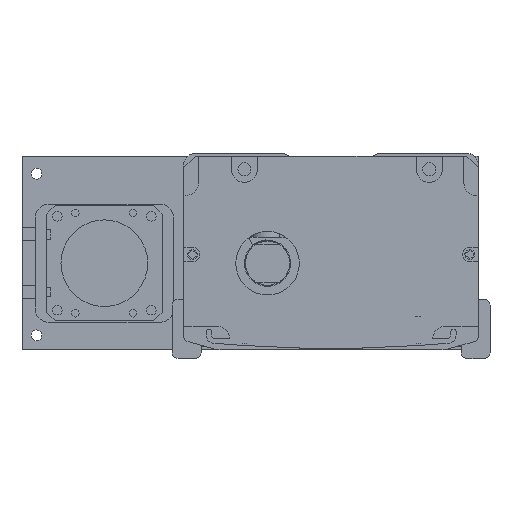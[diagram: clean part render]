
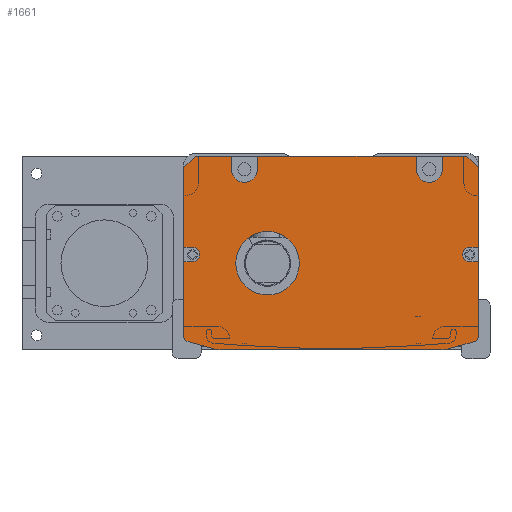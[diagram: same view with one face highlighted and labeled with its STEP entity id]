
A CAD part, front view. The second image highlights one B-rep face of the part: STEP entity #1661.
In plain terms, the highlighted planar face has unit normal (0, -1, 0).
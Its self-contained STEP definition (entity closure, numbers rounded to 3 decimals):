
#1661=ADVANCED_FACE('',(#4376,#4377),#2363,.F.);
#2363=PLANE('',#13967);
#2670=LINE('',#19574,#3477);
#2674=LINE('',#19582,#3481);
#2684=LINE('',#19603,#3491);
#2688=LINE('',#19611,#3495);
#2957=LINE('',#20604,#3764);
#2958=LINE('',#20606,#3765);
#2959=LINE('',#20608,#3766);
#2960=LINE('',#20612,#3767);
#2961=LINE('',#20614,#3768);
#2962=LINE('',#20616,#3769);
#2963=LINE('',#20620,#3770);
#2964=LINE('',#20622,#3771);
#2965=LINE('',#20624,#3772);
#2966=LINE('',#20625,#3773);
#2967=LINE('',#20629,#3774);
#2968=LINE('',#20632,#3775);
#2969=LINE('',#20636,#3776);
#2970=LINE('',#20640,#3777);
#2971=LINE('',#20643,#3778);
#2972=LINE('',#20647,#3779);
#3477=VECTOR('',#15289,1.);
#3481=VECTOR('',#15293,1.);
#3491=VECTOR('',#15305,1.);
#3495=VECTOR('',#15309,1.);
#3764=VECTOR('',#16374,1.);
#3765=VECTOR('',#16375,1.);
#3766=VECTOR('',#16376,1.);
#3767=VECTOR('',#16379,1.);
#3768=VECTOR('',#16380,1.);
#3769=VECTOR('',#16381,1.);
#3770=VECTOR('',#16384,1.);
#3771=VECTOR('',#16385,1.);
#3772=VECTOR('',#16386,1.);
#3773=VECTOR('',#16387,1.);
#3774=VECTOR('',#16390,1.);
#3775=VECTOR('',#16393,1.);
#3776=VECTOR('',#16396,1.);
#3777=VECTOR('',#16399,1.);
#3778=VECTOR('',#16402,1.);
#3779=VECTOR('',#16405,1.);
#4376=FACE_BOUND('',#5140,.T.);
#4377=FACE_BOUND('',#5141,.T.);
#5140=EDGE_LOOP('',(#7096,#7097,#7098,#7099,#7100,#7101,#7102,#7103,#7104,
#7105,#7106,#7107,#7108,#7109,#7110,#7111,#7112,#7113,#7114,#7115,#7116,
#7117,#7118,#7119,#7120,#7121,#7122,#7123));
#5141=EDGE_LOOP('',(#7124));
#7096=ORIENTED_EDGE('',*,*,#11100,.T.);
#7097=ORIENTED_EDGE('',*,*,#11584,.T.);
#7098=ORIENTED_EDGE('',*,*,#11585,.T.);
#7099=ORIENTED_EDGE('',*,*,#11586,.F.);
#7100=ORIENTED_EDGE('',*,*,#11587,.T.);
#7101=ORIENTED_EDGE('',*,*,#11588,.F.);
#7102=ORIENTED_EDGE('',*,*,#11589,.T.);
#7103=ORIENTED_EDGE('',*,*,#11590,.F.);
#7104=ORIENTED_EDGE('',*,*,#11591,.T.);
#7105=ORIENTED_EDGE('',*,*,#11592,.F.);
#7106=ORIENTED_EDGE('',*,*,#11593,.T.);
#7107=ORIENTED_EDGE('',*,*,#11594,.T.);
#7108=ORIENTED_EDGE('',*,*,#11118,.T.);
#7109=ORIENTED_EDGE('',*,*,#11595,.T.);
#7110=ORIENTED_EDGE('',*,*,#11596,.T.);
#7111=ORIENTED_EDGE('',*,*,#11597,.T.);
#7112=ORIENTED_EDGE('',*,*,#11114,.T.);
#7113=ORIENTED_EDGE('',*,*,#11598,.T.);
#7114=ORIENTED_EDGE('',*,*,#11599,.T.);
#7115=ORIENTED_EDGE('',*,*,#11600,.T.);
#7116=ORIENTED_EDGE('',*,*,#11601,.T.);
#7117=ORIENTED_EDGE('',*,*,#11602,.T.);
#7118=ORIENTED_EDGE('',*,*,#11603,.T.);
#7119=ORIENTED_EDGE('',*,*,#11604,.T.);
#7120=ORIENTED_EDGE('',*,*,#11104,.T.);
#7121=ORIENTED_EDGE('',*,*,#11605,.T.);
#7122=ORIENTED_EDGE('',*,*,#11606,.T.);
#7123=ORIENTED_EDGE('',*,*,#11607,.T.);
#7124=ORIENTED_EDGE('',*,*,#11608,.T.);
#9777=VERTEX_POINT('',#19573);
#9778=VERTEX_POINT('',#19575);
#9781=VERTEX_POINT('',#19581);
#9782=VERTEX_POINT('',#19583);
#9791=VERTEX_POINT('',#19602);
#9792=VERTEX_POINT('',#19604);
#9795=VERTEX_POINT('',#19610);
#9796=VERTEX_POINT('',#19612);
#10122=VERTEX_POINT('',#20605);
#10123=VERTEX_POINT('',#20607);
#10124=VERTEX_POINT('',#20609);
#10125=VERTEX_POINT('',#20611);
#10126=VERTEX_POINT('',#20613);
#10127=VERTEX_POINT('',#20615);
#10128=VERTEX_POINT('',#20617);
#10129=VERTEX_POINT('',#20619);
#10130=VERTEX_POINT('',#20621);
#10131=VERTEX_POINT('',#20623);
#10132=VERTEX_POINT('',#20626);
#10133=VERTEX_POINT('',#20628);
#10134=VERTEX_POINT('',#20631);
#10135=VERTEX_POINT('',#20633);
#10136=VERTEX_POINT('',#20635);
#10137=VERTEX_POINT('',#20637);
#10138=VERTEX_POINT('',#20639);
#10139=VERTEX_POINT('',#20641);
#10140=VERTEX_POINT('',#20644);
#10141=VERTEX_POINT('',#20646);
#10142=VERTEX_POINT('',#20649);
#11100=EDGE_CURVE('',#9778,#9777,#2670,.T.);
#11104=EDGE_CURVE('',#9782,#9781,#2674,.T.);
#11114=EDGE_CURVE('',#9792,#9791,#2684,.T.);
#11118=EDGE_CURVE('',#9796,#9795,#2688,.T.);
#11584=EDGE_CURVE('',#9777,#10122,#2957,.T.);
#11585=EDGE_CURVE('',#10122,#10123,#2958,.T.);
#11586=EDGE_CURVE('',#10124,#10123,#2959,.T.);
#11587=EDGE_CURVE('',#10124,#10125,#13008,.T.);
#11588=EDGE_CURVE('',#10126,#10125,#2960,.T.);
#11589=EDGE_CURVE('',#10126,#10127,#2961,.T.);
#11590=EDGE_CURVE('',#10128,#10127,#2962,.T.);
#11591=EDGE_CURVE('',#10128,#10129,#13009,.T.);
#11592=EDGE_CURVE('',#10130,#10129,#2963,.T.);
#11593=EDGE_CURVE('',#10130,#10131,#2964,.T.);
#11594=EDGE_CURVE('',#10131,#9796,#2965,.T.);
#11595=EDGE_CURVE('',#9795,#10132,#2966,.T.);
#11596=EDGE_CURVE('',#10132,#10133,#13010,.T.);
#11597=EDGE_CURVE('',#10133,#9792,#2967,.T.);
#11598=EDGE_CURVE('',#9791,#10134,#13011,.T.);
#11599=EDGE_CURVE('',#10134,#10135,#2968,.T.);
#11600=EDGE_CURVE('',#10135,#10136,#13012,.T.);
#11601=EDGE_CURVE('',#10136,#10137,#2969,.T.);
#11602=EDGE_CURVE('',#10137,#10138,#13013,.T.);
#11603=EDGE_CURVE('',#10138,#10139,#2970,.T.);
#11604=EDGE_CURVE('',#10139,#9782,#13014,.T.);
#11605=EDGE_CURVE('',#9781,#10140,#2971,.T.);
#11606=EDGE_CURVE('',#10140,#10141,#13015,.T.);
#11607=EDGE_CURVE('',#10141,#9778,#2972,.T.);
#11608=EDGE_CURVE('',#10142,#10142,#13016,.T.);
#13008=CIRCLE('',#13958,4.5);
#13009=CIRCLE('',#13959,4.5);
#13010=CIRCLE('',#13960,2.5);
#13011=CIRCLE('',#13961,2.);
#13012=CIRCLE('',#13962,10.);
#13013=CIRCLE('',#13963,10.);
#13014=CIRCLE('',#13964,2.);
#13015=CIRCLE('',#13965,2.5);
#13016=CIRCLE('',#13966,11.);
#13958=AXIS2_PLACEMENT_3D('',#20610,#16377,#16378);
#13959=AXIS2_PLACEMENT_3D('',#20618,#16382,#16383);
#13960=AXIS2_PLACEMENT_3D('',#20627,#16388,#16389);
#13961=AXIS2_PLACEMENT_3D('',#20630,#16391,#16392);
#13962=AXIS2_PLACEMENT_3D('',#20634,#16394,#16395);
#13963=AXIS2_PLACEMENT_3D('',#20638,#16397,#16398);
#13964=AXIS2_PLACEMENT_3D('',#20642,#16400,#16401);
#13965=AXIS2_PLACEMENT_3D('',#20645,#16403,#16404);
#13966=AXIS2_PLACEMENT_3D('',#20648,#16406,#16407);
#13967=AXIS2_PLACEMENT_3D('',#20650,#16408,#16409);
#15289=DIRECTION('',(0.,0.,1.));
#15293=DIRECTION('',(0.,0.,1.));
#15305=DIRECTION('',(0.,0.,-1.));
#15309=DIRECTION('',(0.,0.,-1.));
#16374=DIRECTION('',(-0.707,0.,0.707));
#16375=DIRECTION('',(-1.,0.,0.));
#16376=DIRECTION('',(0.,0.,1.));
#16377=DIRECTION('',(0.,1.,0.));
#16378=DIRECTION('',(0.,0.,1.));
#16379=DIRECTION('',(0.,0.,-1.));
#16380=DIRECTION('',(-1.,0.,0.));
#16381=DIRECTION('',(0.,0.,1.));
#16382=DIRECTION('',(0.,1.,0.));
#16383=DIRECTION('',(0.,0.,1.));
#16384=DIRECTION('',(0.,0.,-1.));
#16385=DIRECTION('',(-1.,0.,0.));
#16386=DIRECTION('',(-0.707,0.,-0.707));
#16387=DIRECTION('',(1.,0.,0.));
#16388=DIRECTION('',(0.,1.,0.));
#16389=DIRECTION('',(0.,0.,1.));
#16390=DIRECTION('',(-1.,0.,0.));
#16391=DIRECTION('',(0.,-1.,0.));
#16392=DIRECTION('',(0.,0.,1.));
#16393=DIRECTION('',(0.963,0.,-0.269));
#16394=DIRECTION('',(0.,-1.,0.));
#16395=DIRECTION('',(0.,0.,1.));
#16396=DIRECTION('',(1.,0.,0.));
#16397=DIRECTION('',(0.,-1.,0.));
#16398=DIRECTION('',(0.,0.,-1.));
#16399=DIRECTION('',(0.963,0.,0.269));
#16400=DIRECTION('',(0.,-1.,0.));
#16401=DIRECTION('',(0.,0.,-1.));
#16402=DIRECTION('',(-1.,0.,0.));
#16403=DIRECTION('',(0.,1.,0.));
#16404=DIRECTION('',(0.,0.,1.));
#16405=DIRECTION('',(1.,0.,0.));
#16406=DIRECTION('',(0.,1.,0.));
#16407=DIRECTION('',(0.,0.,1.));
#16408=DIRECTION('',(0.,1.,0.));
#16409=DIRECTION('',(1.,0.,0.));
#19573=CARTESIAN_POINT('',(47.808,-867.5,-5.));
#19574=CARTESIAN_POINT('',(47.808,-867.5,-1.));
#19575=CARTESIAN_POINT('',(47.808,-867.5,-32.5));
#19581=CARTESIAN_POINT('',(47.808,-867.5,-37.5));
#19582=CARTESIAN_POINT('',(47.808,-867.5,-1.));
#19583=CARTESIAN_POINT('',(47.808,-867.5,-63.212));
#19602=CARTESIAN_POINT('',(-54.192,-867.5,-63.212));
#19603=CARTESIAN_POINT('',(-54.192,-867.5,-62.));
#19604=CARTESIAN_POINT('',(-54.192,-867.5,-37.5));
#19610=CARTESIAN_POINT('',(-54.192,-867.5,-32.5));
#19611=CARTESIAN_POINT('',(-54.192,-867.5,-62.));
#19612=CARTESIAN_POINT('',(-54.192,-867.5,-5.));
#20604=CARTESIAN_POINT('',(43.808,-867.5,-1.));
#20605=CARTESIAN_POINT('',(43.808,-867.5,-1.));
#20606=CARTESIAN_POINT('',(-3.192,-867.5,-1.));
#20607=CARTESIAN_POINT('',(35.308,-867.5,-1.));
#20608=CARTESIAN_POINT('',(35.308,-867.5,-1.));
#20609=CARTESIAN_POINT('',(35.308,-867.5,-5.5));
#20610=CARTESIAN_POINT('',(30.808,-867.5,-5.5));
#20611=CARTESIAN_POINT('',(26.308,-867.5,-5.5));
#20612=CARTESIAN_POINT('',(26.308,-867.5,-1.));
#20613=CARTESIAN_POINT('',(26.308,-867.5,-1.));
#20614=CARTESIAN_POINT('',(-54.192,-867.5,-1.));
#20615=CARTESIAN_POINT('',(-28.692,-867.5,-1.));
#20616=CARTESIAN_POINT('',(-28.692,-867.5,-3.5));
#20617=CARTESIAN_POINT('',(-28.692,-867.5,-5.5));
#20618=CARTESIAN_POINT('',(-33.192,-867.5,-5.5));
#20619=CARTESIAN_POINT('',(-37.692,-867.5,-5.5));
#20620=CARTESIAN_POINT('',(-37.692,-867.5,-1.));
#20621=CARTESIAN_POINT('',(-37.692,-867.5,-1.));
#20622=CARTESIAN_POINT('',(-54.192,-867.5,-1.));
#20623=CARTESIAN_POINT('',(-50.192,-867.5,-1.));
#20624=CARTESIAN_POINT('',(-54.192,-867.5,-5.));
#20625=CARTESIAN_POINT('',(-3.192,-867.5,-32.5));
#20626=CARTESIAN_POINT('',(-51.192,-867.5,-32.5));
#20627=CARTESIAN_POINT('',(-51.192,-867.5,-35.));
#20628=CARTESIAN_POINT('',(-51.192,-867.5,-37.5));
#20629=CARTESIAN_POINT('',(-3.192,-867.5,-37.5));
#20630=CARTESIAN_POINT('',(-52.192,-867.5,-63.212));
#20631=CARTESIAN_POINT('',(-52.731,-867.5,-65.138));
#20632=CARTESIAN_POINT('',(-55.807,-867.5,-64.279));
#20633=CARTESIAN_POINT('',(-43.809,-867.5,-67.631));
#20634=CARTESIAN_POINT('',(-41.118,-867.5,-58.));
#20635=CARTESIAN_POINT('',(-41.118,-867.5,-68.));
#20636=CARTESIAN_POINT('',(-54.692,-867.5,-68.));
#20637=CARTESIAN_POINT('',(34.733,-867.5,-68.));
#20638=CARTESIAN_POINT('',(34.733,-867.5,-58.));
#20639=CARTESIAN_POINT('',(37.424,-867.5,-67.631));
#20640=CARTESIAN_POINT('',(49.422,-867.5,-64.279));
#20641=CARTESIAN_POINT('',(46.346,-867.5,-65.138));
#20642=CARTESIAN_POINT('',(45.808,-867.5,-63.212));
#20643=CARTESIAN_POINT('',(-3.192,-867.5,-37.5));
#20644=CARTESIAN_POINT('',(44.808,-867.5,-37.5));
#20645=CARTESIAN_POINT('',(44.808,-867.5,-35.));
#20646=CARTESIAN_POINT('',(44.808,-867.5,-32.5));
#20647=CARTESIAN_POINT('',(-3.192,-867.5,-32.5));
#20648=CARTESIAN_POINT('',(-25.192,-867.5,-38.));
#20649=CARTESIAN_POINT('',(-25.192,-867.5,-27.));
#20650=CARTESIAN_POINT('',(-3.192,-867.5,-1.));
